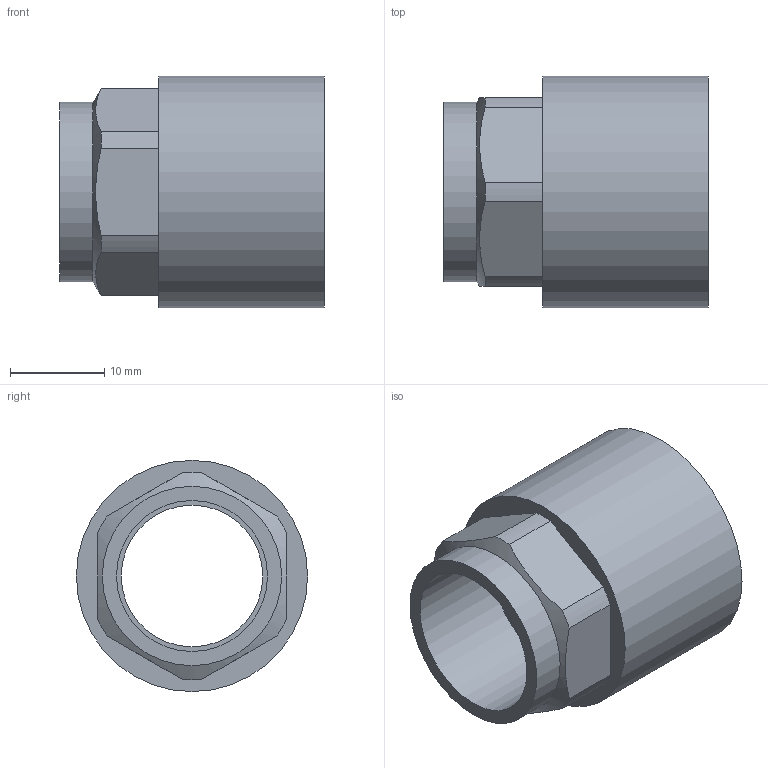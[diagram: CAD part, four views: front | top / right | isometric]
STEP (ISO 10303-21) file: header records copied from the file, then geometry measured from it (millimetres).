
FILE_DESCRIPTION((''),'2;1');
FILE_NAME('G:\Engineering\Public\RYSUNKI\SANHA POLSKA\4270G\STEP\14270_16-12(2).stp','2013-09-09T10:38:30',('haldrzynski'),(''),'Autodesk Inventor 2009','Autodesk Inventor 2009','');
FILE_SCHEMA(('AUTOMOTIVE_DESIGN { 1 0 10303 214 1 1 1 1 }'));
Length unit declared in the file: millimetre
Products named in the file (1): 14270_16-12(2)
Bounding box: 28 x 24.5 x 24.5 mm (x, y, z)
Volume: 4561.9 mm3; surface area: 4225.2 mm2
Topology: 1 solids, 1 shells, 27 faces, 61 edges, 39 vertices
Faces by surface type: cylinder 12, plane 11, cone 3, bspline 1
Full cylindrical faces by diameter (mm): 15 x1, 16 x1, 18.631 x1, 19 x1, 21.7 x1, 24.5 x1
Entity records: 766 total; most frequent: CARTESIAN_POINT 172, DIRECTION 124, ORIENTED_EDGE 100, AXIS2_PLACEMENT_3D 53, EDGE_CURVE 50, EDGE_LOOP 42, VERTEX_POINT 38, FACE_OUTER_BOUND 27
